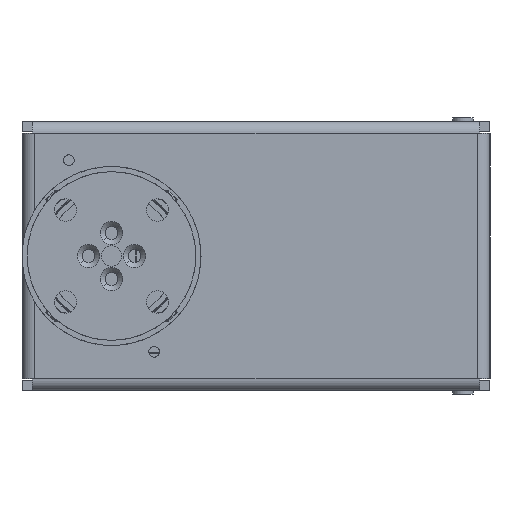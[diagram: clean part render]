
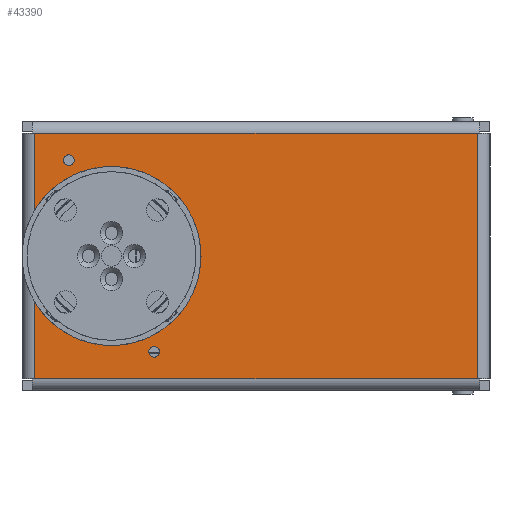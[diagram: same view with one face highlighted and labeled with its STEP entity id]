
A CAD part, front view. The second image highlights one B-rep face of the part: STEP entity #43390.
In plain terms, the highlighted planar face has unit normal (0, -1, 0).
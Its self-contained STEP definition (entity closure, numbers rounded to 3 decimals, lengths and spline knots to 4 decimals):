
#107 = CARTESIAN_POINT ( 'NONE',  ( 5.6299, 21.437, -1.8898 ) ) ;
#527 = VERTEX_POINT ( 'NONE', #63398 ) ;
#770 = CARTESIAN_POINT ( 'NONE',  ( 0.6565, 21.437, -1.4746 ) ) ;
#3188 = LINE ( 'NONE', #13333, #15100 ) ;
#4112 = CARTESIAN_POINT ( 'NONE',  ( -0.6565, 21.437, 1.5573 ) ) ;
#5119 = EDGE_CURVE ( 'NONE', #527, #12930, #26045, .T. ) ;
#5238 = VERTEX_POINT ( 'NONE', #7446 ) ;
#5538 = ORIENTED_EDGE ( 'NONE', *, *, #94980, .T. ) ;
#6039 = DIRECTION ( 'NONE',  ( 0., 0., -1. ) ) ;
#7211 = AXIS2_PLACEMENT_3D ( 'NONE', #23244, #67460, #37212 ) ;
#7343 = EDGE_CURVE ( 'NONE', #8445, #5238, #42317, .T. ) ;
#7446 = CARTESIAN_POINT ( 'NONE',  ( 0., 21.437, 0.9843 ) ) ;
#8445 = VERTEX_POINT ( 'NONE', #69737 ) ;
#8693 = AXIS2_PLACEMENT_3D ( 'NONE', #20493, #97555, #66343 ) ;
#9343 = EDGE_CURVE ( 'NONE', #12930, #13483, #88555, .T. ) ;
#9818 = CARTESIAN_POINT ( 'NONE',  ( 5.6299, 21.437, 1.8898 ) ) ;
#10143 = VERTEX_POINT ( 'NONE', #41589 ) ;
#10536 = CARTESIAN_POINT ( 'NONE',  ( 0., 21.437, 0. ) ) ;
#11400 = CARTESIAN_POINT ( 'NONE',  ( 0., 21.437, 0. ) ) ;
#11641 = CARTESIAN_POINT ( 'NONE',  ( -1.378, 21.437, -1.8898 ) ) ;
#12041 = PLANE ( 'NONE',  #40541 ) ;
#12930 = VERTEX_POINT ( 'NONE', #9818 ) ;
#12937 = ORIENTED_EDGE ( 'NONE', *, *, #13859, .T. ) ;
#13333 = CARTESIAN_POINT ( 'NONE',  ( -1.1811, 21.437, 1.8898 ) ) ;
#13483 = VERTEX_POINT ( 'NONE', #86894 ) ;
#13859 = EDGE_CURVE ( 'NONE', #38277, #10143, #82045, .T. ) ;
#14298 = EDGE_CURVE ( 'NONE', #26259, #23606, #38003, .T. ) ;
#15100 = VECTOR ( 'NONE', #6039, 39.3701 ) ;
#18414 = DIRECTION ( 'NONE',  ( 0., 0., 1. ) ) ;
#20493 = CARTESIAN_POINT ( 'NONE',  ( -0.6565, 21.437, 1.4746 ) ) ;
#20826 = CIRCLE ( 'NONE', #31359, 0.9843 ) ;
#22289 = ORIENTED_EDGE ( 'NONE', *, *, #47757, .T. ) ;
#22576 = EDGE_CURVE ( 'NONE', #13483, #54208, #3188, .T. ) ;
#23244 = CARTESIAN_POINT ( 'NONE',  ( -0.6565, 21.437, 1.4746 ) ) ;
#23606 = VERTEX_POINT ( 'NONE', #4112 ) ;
#24336 = EDGE_CURVE ( 'NONE', #5238, #8445, #20826, .T. ) ;
#24477 = DIRECTION ( 'NONE',  ( 0., 1., 0. ) ) ;
#26045 = LINE ( 'NONE', #107, #43834 ) ;
#26259 = VERTEX_POINT ( 'NONE', #30037 ) ;
#27516 = EDGE_LOOP ( 'NONE', ( #60950, #42618 ) ) ;
#28189 = CARTESIAN_POINT ( 'NONE',  ( 5.8268, 21.437, 1.8898 ) ) ;
#30037 = CARTESIAN_POINT ( 'NONE',  ( -0.6565, 21.437, 1.3919 ) ) ;
#30994 = DIRECTION ( 'NONE',  ( 0., 0., 1. ) ) ;
#31359 = AXIS2_PLACEMENT_3D ( 'NONE', #10536, #70342, #78295 ) ;
#32794 = ORIENTED_EDGE ( 'NONE', *, *, #53580, .T. ) ;
#36277 = ORIENTED_EDGE ( 'NONE', *, *, #22576, .T. ) ;
#37212 = DIRECTION ( 'NONE',  ( 0., 0., 1. ) ) ;
#38003 = CIRCLE ( 'NONE', #7211, 0.0827 ) ;
#38277 = VERTEX_POINT ( 'NONE', #63569 ) ;
#38492 = VECTOR ( 'NONE', #59109, 39.3701 ) ;
#38640 = AXIS2_PLACEMENT_3D ( 'NONE', #47359, #24477, #53678 ) ;
#40541 = AXIS2_PLACEMENT_3D ( 'NONE', #11400, #94463, #88144 ) ;
#41589 = CARTESIAN_POINT ( 'NONE',  ( 0.6565, 21.437, -1.3919 ) ) ;
#42317 = CIRCLE ( 'NONE', #38640, 0.9843 ) ;
#42618 = ORIENTED_EDGE ( 'NONE', *, *, #7343, .T. ) ;
#43390 = ADVANCED_FACE ( 'NONE', ( #47681, #54830, #65505, #90525 ), #12041, .F. ) ;
#43834 = VECTOR ( 'NONE', #30994, 39.3701 ) ;
#44393 = LINE ( 'NONE', #11641, #38492 ) ;
#46598 = AXIS2_PLACEMENT_3D ( 'NONE', #770, #84476, #53899 ) ;
#47359 = CARTESIAN_POINT ( 'NONE',  ( 0., 21.437, 0. ) ) ;
#47681 = FACE_BOUND ( 'NONE', #50575, .T. ) ;
#47757 = EDGE_CURVE ( 'NONE', #10143, #38277, #49654, .T. ) ;
#47978 = DIRECTION ( 'NONE',  ( 0., 1., 0. ) ) ;
#49654 = CIRCLE ( 'NONE', #68225, 0.0827 ) ;
#50575 = EDGE_LOOP ( 'NONE', ( #32794, #79027 ) ) ;
#50770 = DIRECTION ( 'NONE',  ( -1., 0., 0. ) ) ;
#53580 = EDGE_CURVE ( 'NONE', #23606, #26259, #71144, .T. ) ;
#53678 = DIRECTION ( 'NONE',  ( 0., 0., 1. ) ) ;
#53899 = DIRECTION ( 'NONE',  ( 0., 0., 1. ) ) ;
#54208 = VERTEX_POINT ( 'NONE', #56758 ) ;
#54830 = FACE_BOUND ( 'NONE', #92894, .T. ) ;
#56758 = CARTESIAN_POINT ( 'NONE',  ( -1.1811, 21.437, -1.8898 ) ) ;
#59109 = DIRECTION ( 'NONE',  ( 1., 0., 0. ) ) ;
#60950 = ORIENTED_EDGE ( 'NONE', *, *, #24336, .T. ) ;
#63398 = CARTESIAN_POINT ( 'NONE',  ( 5.6299, 21.437, -1.8898 ) ) ;
#63569 = CARTESIAN_POINT ( 'NONE',  ( 0.6565, 21.437, -1.5573 ) ) ;
#65505 = FACE_BOUND ( 'NONE', #27516, .T. ) ;
#66343 = DIRECTION ( 'NONE',  ( 0., 0., 1. ) ) ;
#67255 = EDGE_LOOP ( 'NONE', ( #77035, #93650, #36277, #5538 ) ) ;
#67460 = DIRECTION ( 'NONE',  ( 0., 1., 0. ) ) ;
#68225 = AXIS2_PLACEMENT_3D ( 'NONE', #78857, #47978, #18414 ) ;
#69737 = CARTESIAN_POINT ( 'NONE',  ( 0., 21.437, -0.9843 ) ) ;
#70342 = DIRECTION ( 'NONE',  ( 0., 1., 0. ) ) ;
#71144 = CIRCLE ( 'NONE', #8693, 0.0827 ) ;
#77035 = ORIENTED_EDGE ( 'NONE', *, *, #5119, .T. ) ;
#78295 = DIRECTION ( 'NONE',  ( 0., 0., 1. ) ) ;
#78857 = CARTESIAN_POINT ( 'NONE',  ( 0.6565, 21.437, -1.4746 ) ) ;
#79027 = ORIENTED_EDGE ( 'NONE', *, *, #14298, .T. ) ;
#82045 = CIRCLE ( 'NONE', #46598, 0.0827 ) ;
#82601 = VECTOR ( 'NONE', #50770, 39.3701 ) ;
#84476 = DIRECTION ( 'NONE',  ( 0., 1., 0. ) ) ;
#86894 = CARTESIAN_POINT ( 'NONE',  ( -1.1811, 21.437, 1.8898 ) ) ;
#88144 = DIRECTION ( 'NONE',  ( 0., 0., 1. ) ) ;
#88555 = LINE ( 'NONE', #28189, #82601 ) ;
#90525 = FACE_OUTER_BOUND ( 'NONE', #67255, .T. ) ;
#92894 = EDGE_LOOP ( 'NONE', ( #22289, #12937 ) ) ;
#93650 = ORIENTED_EDGE ( 'NONE', *, *, #9343, .T. ) ;
#94463 = DIRECTION ( 'NONE',  ( 0., 1., 0. ) ) ;
#94980 = EDGE_CURVE ( 'NONE', #54208, #527, #44393, .T. ) ;
#97555 = DIRECTION ( 'NONE',  ( 0., 1., 0. ) ) ;
